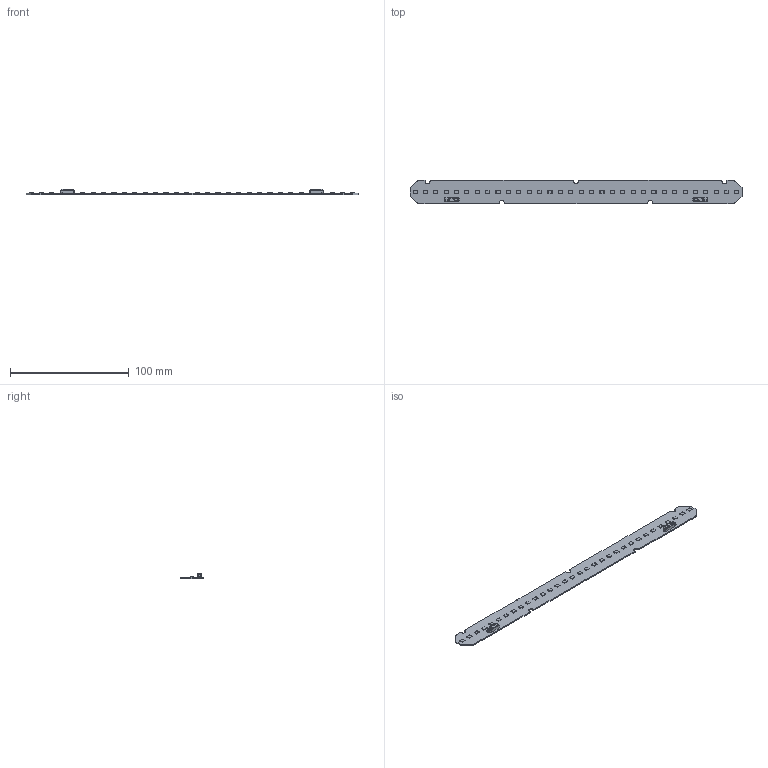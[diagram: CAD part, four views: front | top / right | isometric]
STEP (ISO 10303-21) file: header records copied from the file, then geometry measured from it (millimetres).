
FILE_DESCRIPTION(/* description */ ('Unknown'),/* implementation_level */ '2;1');
FILE_NAME(/* name */ 'LinLED 1100lm per 1ft 2C 32LED per 1ft 280x20',/* time_stamp */ '2023-05-11T15:53:58+02:00',/* author */ ('Unknown'),/* organization */ ('Unknown'),/* preprocessor_version */ 'ST-DEVELOPER v18.102',/* originating_system */ 'Solid Edge',/* authorisation */ 'Unknown');
FILE_SCHEMA (('AUTOMOTIVE_DESIGN {1 0 10303 214 3 1 1}'));
Length unit declared in the file: millimetre
Products named in the file (1): LinLED 1100lm per 1ft 2C 32LED per 1ft 280x20
Bounding box: 279.6 x 20 x 4.45 mm (x, y, z)
Volume: 5880.7 mm3; surface area: 12185.8 mm2
Topology: 1 solids, 1 shells, 1038 faces, 2710 edges, 1738 vertices
Faces by surface type: plane 733, cylinder 149, torus 64, cone 50, bspline 26, sphere 16
Entity records: 39680 total; most frequent: CARTESIAN_POINT 7713, ORIENTED_EDGE 5372, DIRECTION 4574, EDGE_CURVE 2686, LINE 2040, VECTOR 2040, VERTEX_POINT 1732, AXIS2_PLACEMENT_3D 1267
